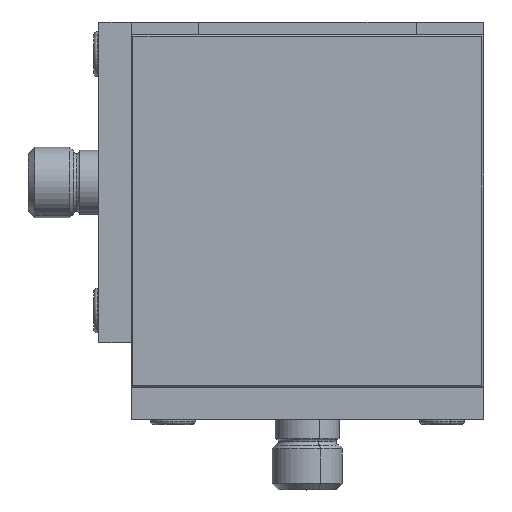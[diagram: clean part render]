
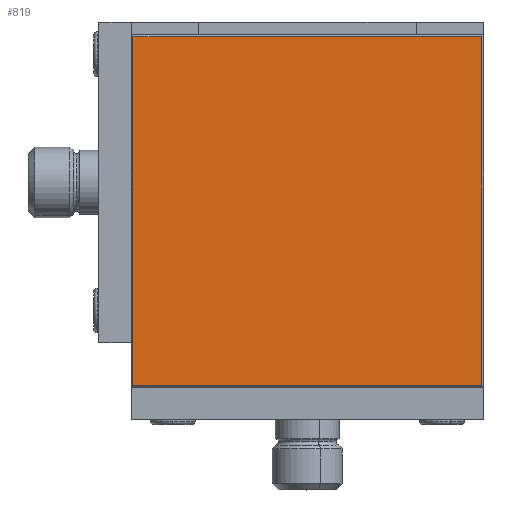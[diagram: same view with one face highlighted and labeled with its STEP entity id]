
A CAD part, top view. The second image highlights one B-rep face of the part: STEP entity #819.
In plain terms, the highlighted planar face has unit normal (0, 0, 1).
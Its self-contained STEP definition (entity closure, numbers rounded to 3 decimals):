
#819=ADVANCED_FACE('',(#1734),#1735,.F.);
#1734=FACE_OUTER_BOUND('',#2847,.T.);
#1735=PLANE('',#2848);
#2847=EDGE_LOOP('',(#4778,#4779,#4780,#4781));
#2848=AXIS2_PLACEMENT_3D('',#4782,#4783,#4784);
#4778=ORIENTED_EDGE('',*,*,#6685,.T.);
#4779=ORIENTED_EDGE('',*,*,#6686,.T.);
#4780=ORIENTED_EDGE('',*,*,#6687,.T.);
#4781=ORIENTED_EDGE('',*,*,#6688,.T.);
#4782=CARTESIAN_POINT('',(55.,-57.014,29.));
#4783=DIRECTION('',(0.,0.,-1.0));
#4784=DIRECTION('',(0.0,-1.0,0.));
#6685=EDGE_CURVE('',#8018,#8019,#8020,.T.);
#6686=EDGE_CURVE('',#8019,#8021,#8022,.T.);
#6687=EDGE_CURVE('',#8021,#8023,#8024,.T.);
#6688=EDGE_CURVE('',#8023,#8018,#8025,.T.);
#8018=VERTEX_POINT('',#9966);
#8019=VERTEX_POINT('',#9967);
#8020=LINE('',#9968,#9969);
#8021=VERTEX_POINT('',#9970);
#8022=LINE('',#9971,#9972);
#8023=VERTEX_POINT('',#9973);
#8024=LINE('',#9974,#9975);
#8025=LINE('',#9976,#9977);
#9966=CARTESIAN_POINT('',(0.3,-56.714,29.));
#9967=CARTESIAN_POINT('',(54.7,-56.714,29.));
#9968=CARTESIAN_POINT('',(55.,-56.714,29.));
#9969=VECTOR('',#11809,1000.0);
#9970=CARTESIAN_POINT('',(54.7,-2.314,29.));
#9971=CARTESIAN_POINT('',(54.7,-57.014,29.));
#9972=VECTOR('',#11810,1000.0);
#9973=CARTESIAN_POINT('',(0.3,-2.314,29.));
#9974=CARTESIAN_POINT('',(55.,-2.314,29.));
#9975=VECTOR('',#11811,1000.0);
#9976=CARTESIAN_POINT('',(0.3,-57.014,29.));
#9977=VECTOR('',#11812,1000.0);
#11809=DIRECTION('',(1.0,0.,0.));
#11810=DIRECTION('',(0.,1.0,0.));
#11811=DIRECTION('',(-1.0,0.,0.));
#11812=DIRECTION('',(0.,-1.0,0.));
